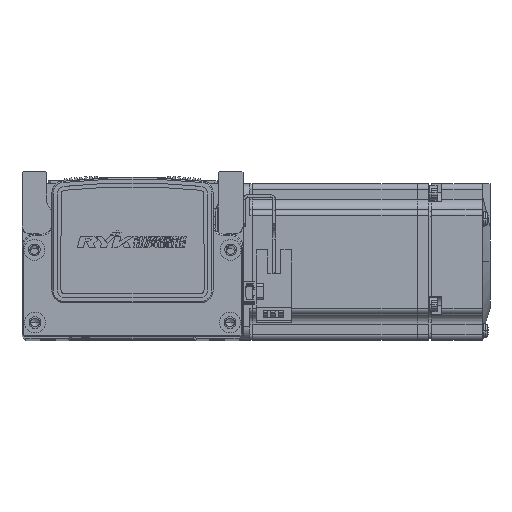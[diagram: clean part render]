
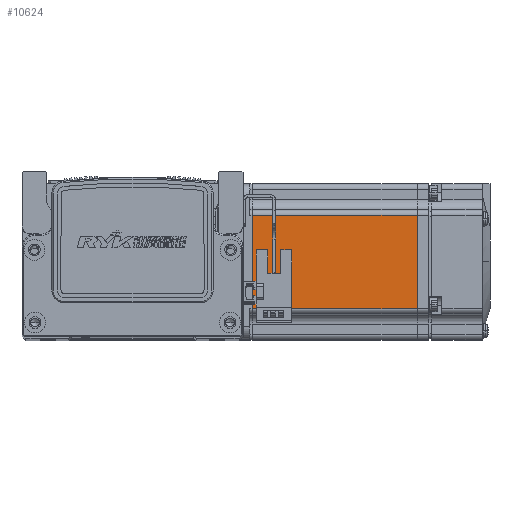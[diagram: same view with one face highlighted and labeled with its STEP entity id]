
A CAD part, top view. The second image highlights one B-rep face of the part: STEP entity #10624.
In plain terms, the highlighted planar face has unit normal (0, 0, 1) as drawn and (0, 0, -1) by its records, which use the part's own axes.
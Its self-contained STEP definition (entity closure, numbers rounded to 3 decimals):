
#2189 = DIRECTION ( 'NONE',  ( -1., 0., 0. ) ) ;
#2231 = CARTESIAN_POINT ( 'NONE',  ( -6.5, -18., -30. ) ) ;
#2250 = DIRECTION ( 'NONE',  ( 0., -1., 0. ) ) ;
#2269 = CARTESIAN_POINT ( 'NONE',  ( -7.75, 25., -30. ) ) ;
#2849 = CARTESIAN_POINT ( 'NONE',  ( -6.5, 18., -30. ) ) ;
#2869 = DIRECTION ( 'NONE',  ( 1., 0., 0. ) ) ;
#10624 = ADVANCED_FACE ( 'NONE', ( #31067 ), #46732, .T. ) ;
#19273 = ORIENTED_EDGE ( 'NONE', *, *, #55627, .T. ) ;
#19304 = ORIENTED_EDGE ( 'NONE', *, *, #55641, .T. ) ;
#19309 = ORIENTED_EDGE ( 'NONE', *, *, #55617, .T. ) ;
#19310 = ORIENTED_EDGE ( 'NONE', *, *, #55807, .T. ) ;
#31067 = FACE_OUTER_BOUND ( 'NONE', #54503, .T. ) ;
#36370 = VECTOR ( 'NONE', #2250, 1000. ) ;
#36381 = LINE ( 'NONE', #2231, #36399 ) ;
#36399 = VECTOR ( 'NONE', #2189, 1000. ) ;
#36406 = LINE ( 'NONE', #2269, #36370 ) ;
#36412 = LINE ( 'NONE', #38019, #36415 ) ;
#36415 = VECTOR ( 'NONE', #38038, 1000. ) ;
#36815 = VECTOR ( 'NONE', #2869, 1000. ) ;
#36818 = LINE ( 'NONE', #2849, #36815 ) ;
#38019 = CARTESIAN_POINT ( 'NONE',  ( -70.95, 25., -30. ) ) ;
#38038 = DIRECTION ( 'NONE',  ( 0., 1., 0. ) ) ;
#46732 = PLANE ( 'NONE',  #58270 ) ;
#46741 = DIRECTION ( 'NONE',  ( 0., 0., -1. ) ) ;
#46750 = DIRECTION ( 'NONE',  ( -1., 0., 0. ) ) ;
#46758 = CARTESIAN_POINT ( 'NONE',  ( -6.5, 25., -30. ) ) ;
#54503 = EDGE_LOOP ( 'NONE', ( #19304, #19273, #19309, #19310 ) ) ;
#55617 = EDGE_CURVE ( 'NONE', #65958, #66007, #36412, .T. ) ;
#55627 = EDGE_CURVE ( 'NONE', #65926, #65958, #36381, .T. ) ;
#55641 = EDGE_CURVE ( 'NONE', #65948, #65926, #36406, .T. ) ;
#55807 = EDGE_CURVE ( 'NONE', #66007, #65948, #36818, .T. ) ;
#58270 = AXIS2_PLACEMENT_3D ( 'NONE', #46758, #46741, #46750 ) ;
#65926 = VERTEX_POINT ( 'NONE', #66922 ) ;
#65948 = VERTEX_POINT ( 'NONE', #66960 ) ;
#65958 = VERTEX_POINT ( 'NONE', #67020 ) ;
#66007 = VERTEX_POINT ( 'NONE', #67051 ) ;
#66922 = CARTESIAN_POINT ( 'NONE',  ( -7.75, -18., -30. ) ) ;
#66960 = CARTESIAN_POINT ( 'NONE',  ( -7.75, 18., -30. ) ) ;
#67020 = CARTESIAN_POINT ( 'NONE',  ( -70.95, -18., -30. ) ) ;
#67051 = CARTESIAN_POINT ( 'NONE',  ( -70.95, 18., -30. ) ) ;
